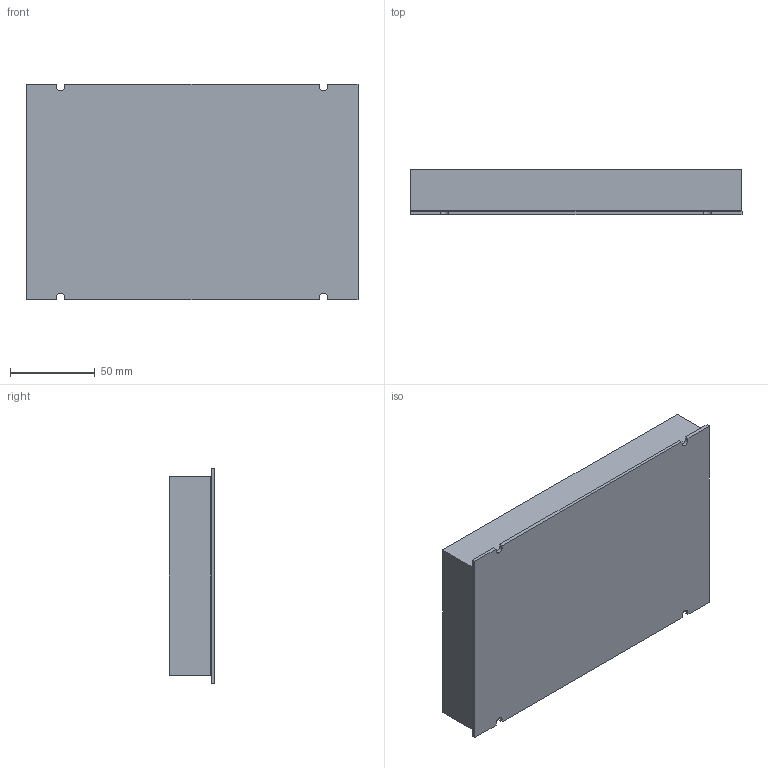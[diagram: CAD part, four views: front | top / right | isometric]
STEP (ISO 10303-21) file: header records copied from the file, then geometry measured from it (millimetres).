
FILE_DESCRIPTION (( 'STEP AP203' ), '1' );
FILE_NAME ('力为控制技术-3D模型-《PMC108R》.STEP', '2024-12-30T02:16:31', ( '' ), ( '' ), 'SwSTEP 2.0', 'SolidWorks 2020', '' );
FILE_SCHEMA (( 'CONFIG_CONTROL_DESIGN' ));
Length unit declared in the file: millimetre
Products named in the file (1): 力为控制技术-3D模型-《PMC108R》
Bounding box: 196 x 26.8 x 127.4 mm (x, y, z)
Volume: 79946.7 mm3; surface area: 123274.8 mm2
Topology: 11 solids, 11 shells, 123 faces, 300 edges, 200 vertices
Faces by surface type: plane 79, cylinder 44
Entity records: 3735 total; most frequent: DIRECTION 636, CARTESIAN_POINT 624, ORIENTED_EDGE 600, EDGE_CURVE 300, LINE 212, VECTOR 212, AXIS2_PLACEMENT_3D 212, VERTEX_POINT 200
